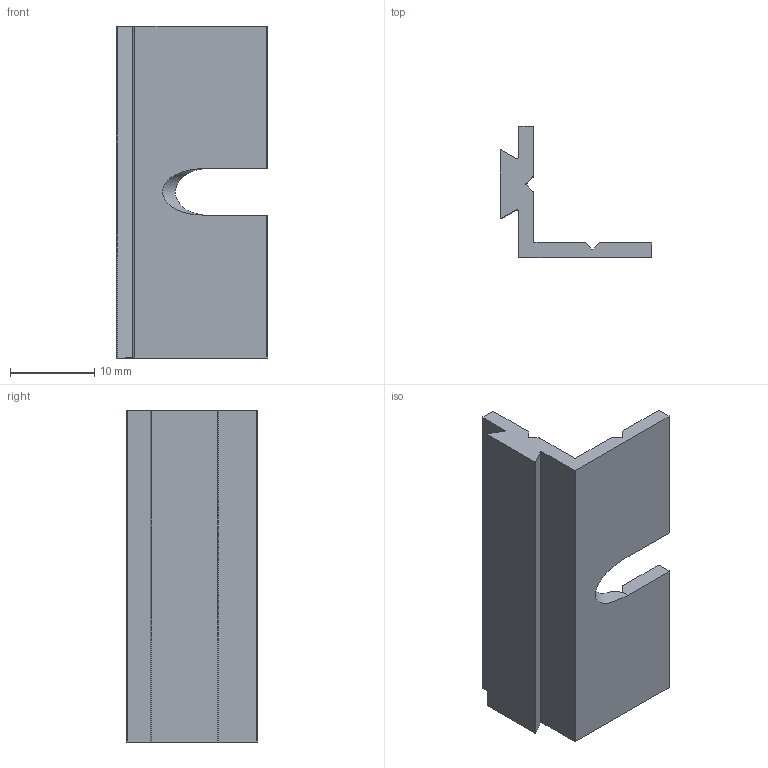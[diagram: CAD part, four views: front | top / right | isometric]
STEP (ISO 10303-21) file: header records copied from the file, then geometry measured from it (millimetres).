
FILE_DESCRIPTION (( 'STEP AP214' ), '1' );
FILE_NAME ('MF-40.STEP', '2020-08-06T14:16:51', ( 'Rudy' ), ( '' ), 'SwSTEP 2.0', 'SolidWorks 2014', '' );
FILE_SCHEMA (( 'AUTOMOTIVE_DESIGN' ));
Length unit declared in the file: inch
Products named in the file (1): MF-40
Bounding box: 18 x 15.6 x 39.5 mm (x, y, z)
Volume: 2531.4 mm3; surface area: 2845.3 mm2
Topology: 1 solids, 1 shells, 46 faces, 132 edges, 88 vertices
Faces by surface type: plane 24, cylinder 21, bspline 1
Entity records: 2366 total; most frequent: CARTESIAN_POINT 498, ORIENTED_EDGE 264, DIRECTION 256, EDGE_CURVE 132, VERTEX_POINT 88, AXIS2_PLACEMENT_3D 86, VECTOR 84, LINE 84
